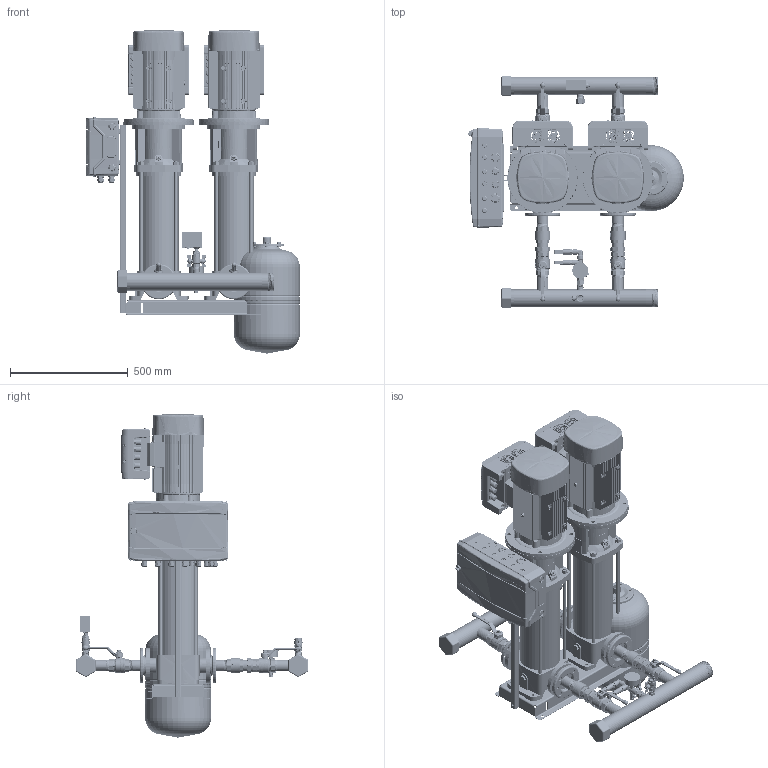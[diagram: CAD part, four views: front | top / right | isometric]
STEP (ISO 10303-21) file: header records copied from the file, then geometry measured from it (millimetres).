
FILE_DESCRIPTION(('CATIA V5 STEP Exchange','CAx-IF Rec.Pracs.--- Model Styling and Organization---1.4--- 2014-01-23','CAx-IF Rec.Pracs.---3D Tessellated Data Validation Properties---0.5---2014-09-14'),'2;1');
FILE_NAME('C:\Users\78432\YandexDisk\Drawings and 3D\3D Hydro Booster\Hydro-ME 3D\Hydro Models\Hydro ME 2 CRV10-xx\Hydro ME 2 CRVE10-14 (DIN).stp','2023-09-20T10:32:17+00:00',('none'),('none'),'CATIA Version 5-6 Release 2019 SP6','CATIA V5 STEP AP242 v1','none');
FILE_SCHEMA(('AP242_MANAGED_MODEL_BASED_3D_ENGINEERING_MIM_LF {1 0 10303 442 1 1 4}'));
Length unit declared in the file: millimetre
Products named in the file (49): Hydro ME 2 CRVE10-14 (DIN); 92051008; CRV10-14 Set (DIN); CRV 10-14_A_DIN_5.5kW; Base; Sleeve; Pumphead; Staybolt.1; Staybolt.2; Staybolt.3; Staybolt.4; Plug; AirVent; Motor; 00id2582; Adapter DN40-1,5" (96619634); 91040268; 91070086; 99110034; Hydraulica NY DN32 1,5 PN16; 92807557_9013-05; DN40_FM_LV_47.303.40; DN40_FF_LV_47.301; SAJ PDH30 4-7,5kW; 97941444; 405801; 405816; 91040267; 97941481; 00ID7527; Holder and CP 18mod; 92878909; Control ME (18mod); 2 sensors + manometer cpl.; manometr 16 bar; RPD-I-G1_2; 9021-01; 2070 1/2-1/2; _2020 1/2-1/2; 98594078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
Assembly tree (57 placements, depth 4):
  Hydro ME 2 CRVE10-14 (DIN)
    92051008
    CRV10-14 Set (DIN)  x2
      CRV 10-14_A_DIN_5.5kW
        Base
        Sleeve
        Pumphead
        Staybolt.1
        Staybolt.2
        Staybolt.3
        Staybolt.4
        Plug
        AirVent
        Motor
      00id2582
      Adapter DN40-1,5" (96619634)
        91040268
        91070086
        99110034
      Hydraulica NY DN32 1,5 PN16
      92807557_9013-05
      DN40_FM_LV_47.303.40
      DN40_FF_LV_47.301
      SAJ PDH30 4-7,5kW
    97941444  x2
      405801
      405816
      91040267
      97941481
    00ID7527  x2
    Holder and CP 18mod
      92878909
      Control ME (18mod)
    2 sensors + manometer cpl.
      manometr 16 bar
      RPD-I-G1_2  x2
      9021-01
      2070 1/2-1/2
      _2020 1/2-1/2
      98594078
    Tank 24L cpl.
      DN20_FF_BF_47.300.20
      9021-03
    Relay cpl.
      Relay RD-2R
      DN20_FF_BF_47.300.20
      2530 3/4-1/2
      _2530 1/2-1/4
    91078139
  WAV-24(D140 1'')
Bounding box: 916.82 x 989.22 x 1379.27 mm (x, y, z)
Volume: 100380503.4 mm3; surface area: 8708907.3 mm2
Topology: 192 solids, 220 shells, 26583 faces, 76712 edges, 51362 vertices
Faces by surface type: plane 10672, cylinder 6749, bspline 6592, cone 1805, torus 482, sphere 153, extrusion 130
Entity records: 722392 total; most frequent: CARTESIAN_POINT 366874, ORIENTED_EDGE 91761, EDGE_CURVE 46421, DIRECTION 41672, VERTEX_POINT 30999, VECTOR 19246, LINE 19181, B_SPLINE_CURVE_WITH_KNOTS 18686
